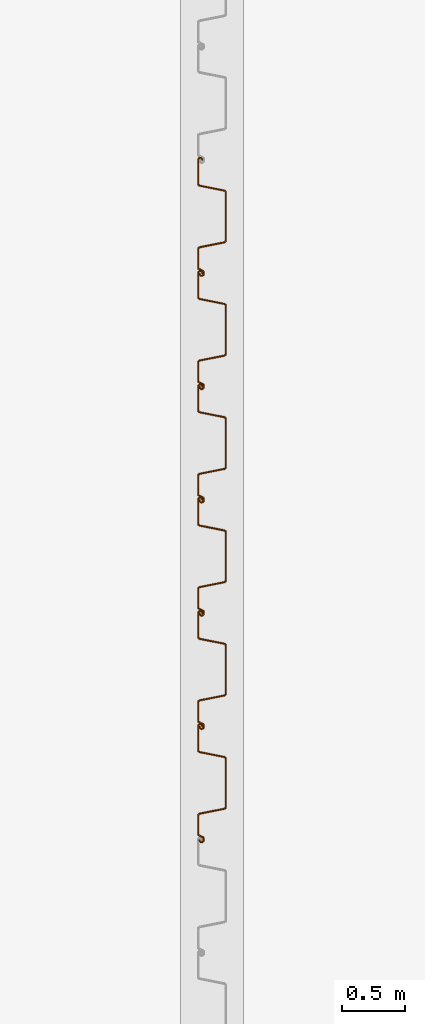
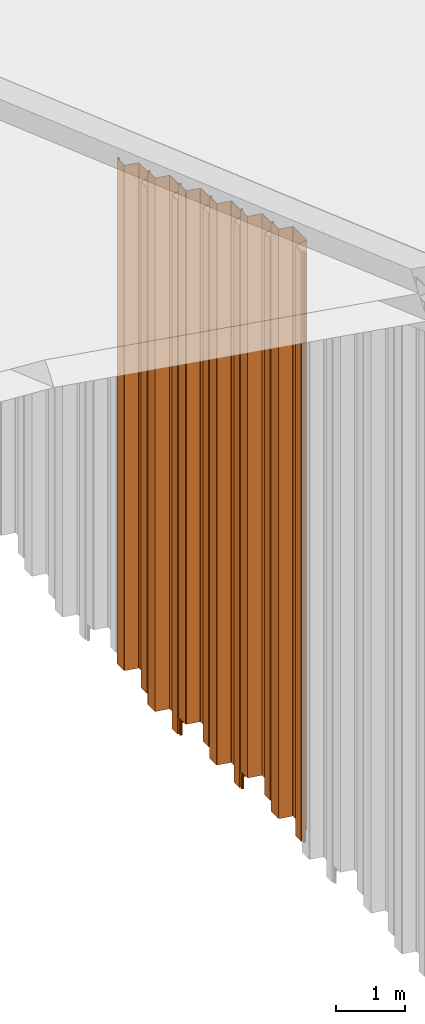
# One storey, part 29 of 32: 6 proxies.
"""IFC2X3 building model written with IfcOpenShell, lengths in millimetres."""

from ifc_helpers import new_model, entity, si_unit, converted_unit, derived_unit, direction, frame, frame_2d, origin, place, context, subcontext, project, spatial, polyline, circle_curve, parameter, trimmed, segment, composite_curve, outline, extrude, source, transform, mapped, type_object, type_shapes, element, save


model = new_model("IFC2X3")

# Units and contexts
model_context = context("Model", 3, precision=0.01, world=origin(), true_north=direction((6.12303176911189e-17, 1.0)))
body_context = subcontext(model_context, "Body", "Model", "MODEL_VIEW")
ifc_project = project(units=[si_unit("LENGTHUNIT", "METRE", prefix="MILLI"), si_unit("AREAUNIT", "SQUARE_METRE"), si_unit("VOLUMEUNIT", "CUBIC_METRE"), converted_unit("PLANEANGLEUNIT", "DEGREE", entity("IfcRatioMeasure", 0.0174532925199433), si_unit("PLANEANGLEUNIT", "RADIAN"), dimensions=[0, 0, 0, 0, 0, 0, 0]), si_unit("MASSUNIT", "GRAM", prefix="KILO"), derived_unit("MASSDENSITYUNIT", [(si_unit("MASSUNIT", "GRAM", prefix="KILO"), 1), (si_unit("LENGTHUNIT", "METRE"), -3)]), si_unit("TIMEUNIT", "SECOND"), si_unit("FREQUENCYUNIT", "HERTZ"), si_unit("THERMODYNAMICTEMPERATUREUNIT", "DEGREE_CELSIUS"), derived_unit("THERMALTRANSMITTANCEUNIT", [(si_unit("MASSUNIT", "GRAM", prefix="KILO"), 1), (si_unit("THERMODYNAMICTEMPERATUREUNIT", "KELVIN"), -1), (si_unit("TIMEUNIT", "SECOND"), -3)]), derived_unit("VOLUMETRICFLOWRATEUNIT", [(si_unit("LENGTHUNIT", "METRE"), 3), (si_unit("TIMEUNIT", "SECOND"), -1)]), si_unit("ELECTRICCURRENTUNIT", "AMPERE"), si_unit("ELECTRICVOLTAGEUNIT", "VOLT"), si_unit("POWERUNIT", "WATT"), si_unit("FORCEUNIT", "NEWTON", prefix="KILO"), si_unit("ILLUMINANCEUNIT", "LUX"), si_unit("LUMINOUSFLUXUNIT", "LUMEN"), si_unit("LUMINOUSINTENSITYUNIT", "CANDELA"), derived_unit("USERDEFINED", [(si_unit("MASSUNIT", "GRAM", prefix="KILO"), -1), (si_unit("LENGTHUNIT", "METRE"), -2), (si_unit("TIMEUNIT", "SECOND"), 3), (si_unit("LUMINOUSFLUXUNIT", "LUMEN"), 1)]), derived_unit("LINEARVELOCITYUNIT", [(si_unit("LENGTHUNIT", "METRE"), 1), (si_unit("TIMEUNIT", "SECOND"), -1)]), si_unit("PRESSUREUNIT", "PASCAL"), derived_unit("USERDEFINED", [(si_unit("LENGTHUNIT", "METRE"), -2), (si_unit("MASSUNIT", "GRAM", prefix="KILO"), 1), (si_unit("TIMEUNIT", "SECOND"), -2)])], contexts=[model_context])

# Site, building, storey
site_placement = place(None, origin())
site = spatial("IfcSite", under=ifc_project, at=site_placement, Name="Default", CompositionType="ELEMENT")
building_placement = place(site_placement, origin())
building = spatial("IfcBuilding", under=site, at=building_placement, CompositionType="ELEMENT")
storey_placement = place(building_placement, origin())
storey = spatial("IfcBuildingStorey", under=building, at=storey_placement, Name="矢板", CompositionType="ELEMENT", Elevation=0.0)

# Proxies
building_element_proxy_type_1 = type_object("IfcBuildingElementProxyType", Name="鋼矢板10H型", PredefinedType="NOTDEFINED")
shared_shape_1 = source(origin(), body_context, "Body", "SweptSolid", [
    extrude(outline(composite_curve([segment(trimmed(circle_curve(frame_2d((85.3662976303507, 306.644432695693), x_axis=(0.422618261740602, 0.906307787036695)), 13.885714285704), [parameter(24.9999999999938)], [parameter(90.0000000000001)], True, "PARAMETER"), True, "CONTINUOUS"), segment(polyline([(72.7815666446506, 312.512789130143), (9.8129512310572, 177.476157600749)]), True, "CONTINUOUS"), segment(trimmed(circle_curve(frame_2d((29.3891994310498, 168.347603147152), x_axis=(0.422618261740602, 0.906307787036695)), 21.6), [parameter(90.0000000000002)], [parameter(168.69006752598)], True, "PARAMETER"), True, "CONTINUOUS"), segment(polyline([(16.598697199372, 150.941769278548), (175.329723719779, 34.2998683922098)]), True, "CONTINUOUS"), segment(trimmed(circle_curve(frame_2d((168.93447260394, 25.596951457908), x_axis=(0.422618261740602, 0.906307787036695)), 10.7999999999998), [parameter(270.0)], [parameter(348.690067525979)], True, "PARAMETER"), False, "CONTINUOUS"), segment(polyline([(178.722596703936, 21.0326742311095), (18.2974003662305, -323.000269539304)]), True, "CONTINUOUS"), segment(trimmed(circle_curve(frame_2d((8.50927626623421, -318.435992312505), x_axis=(0.422618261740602, 0.906307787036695)), 10.8), [parameter(191.30993247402)], [parameter(269.999999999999)], True, "PARAMETER"), False, "CONTINUOUS"), segment(polyline([(5.95324328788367, -328.929166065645), (-185.429973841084, -282.310113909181)]), True, "CONTINUOUS"), segment(trimmed(circle_curve(frame_2d((-190.542039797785, -303.296461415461), x_axis=(0.422618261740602, 0.906307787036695)), 21.6000000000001), [parameter(11.3099324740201)], [parameter(90.0000000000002)], True, "PARAMETER"), True, "CONTINUOUS"), segment(polyline([(-210.118287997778, -294.167906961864), (-290.330886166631, -466.184378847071)]), True, "CONTINUOUS"), segment(trimmed(circle_curve(frame_2d((-270.754637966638, -475.312933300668), x_axis=(0.422618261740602, 0.906307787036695)), 21.6), [parameter(90.0000000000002)], [parameter(269.999999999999)], True, "PARAMETER"), True, "CONTINUOUS"), segment(polyline([(-251.178389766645, -484.441487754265), (-249.065298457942, -479.909948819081)]), True, "CONTINUOUS"), segment(polyline([(-249.065298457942, -479.909948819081), (-258.853422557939, -475.345671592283)]), True, "CONTINUOUS"), segment(polyline([(-258.853422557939, -475.345671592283), (-260.966513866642, -479.877210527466)]), True, "CONTINUOUS"), segment(trimmed(circle_curve(frame_2d((-270.754637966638, -475.312933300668), x_axis=(0.422618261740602, 0.906307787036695)), 10.8), [parameter(90.0000000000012)], [parameter(270.0)], True, "PARAMETER"), False, "CONTINUOUS"), segment(polyline([(-280.542762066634, -470.748656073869), (-200.330163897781, -298.732184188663)]), True, "CONTINUOUS"), segment(trimmed(circle_curve(frame_2d((-190.542039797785, -303.296461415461), x_axis=(0.422618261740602, 0.906307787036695)), 10.8), [parameter(11.3099324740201)], [parameter(89.9999999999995)], True, "PARAMETER"), False, "CONTINUOUS"), segment(polyline([(-187.986006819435, -292.803287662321), (3.39721030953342, -339.422339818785)]), True, "CONTINUOUS"), segment(trimmed(circle_curve(frame_2d((8.50927626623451, -318.435992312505), x_axis=(0.422618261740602, 0.906307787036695)), 21.6), [parameter(191.30993247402)], [parameter(270.0)], True, "PARAMETER"), True, "CONTINUOUS"), segment(polyline([(28.0855244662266, -327.564546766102), (188.510720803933, 16.4683970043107)]), True, "CONTINUOUS"), segment(trimmed(circle_curve(frame_2d((168.93447260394, 25.5969514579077), x_axis=(0.422618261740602, 0.906307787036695)), 21.6), [parameter(270.0)], [parameter(348.69006752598)], True, "PARAMETER"), True, "CONTINUOUS"), segment(polyline([(181.724974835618, 43.0027853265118), (22.9939483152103, 159.644686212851)]), True, "CONTINUOUS"), segment(trimmed(circle_curve(frame_2d((29.3891994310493, 168.347603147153), x_axis=(0.422618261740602, 0.906307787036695)), 10.7999999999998), [parameter(89.9999999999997)], [parameter(168.690067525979)], True, "PARAMETER"), False, "CONTINUOUS"), segment(polyline([(19.6010753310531, 172.911880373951), (82.5696907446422, 307.948511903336)]), True, "CONTINUOUS"), segment(trimmed(circle_curve(frame_2d((85.3662976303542, 306.64443269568), x_axis=(0.422618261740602, 0.906307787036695)), 3.08571428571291), [parameter(25.0000000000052)], [parameter(90.0000000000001)], True, "PARAMETER"), False, "CONTINUOUS"), segment(polyline([(85.3662976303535, 309.730146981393), (122.220231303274, 309.730146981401)]), True, "CONTINUOUS"), segment(trimmed(circle_curve(frame_2d((122.220231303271, 323.615861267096), x_axis=(0.422618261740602, 0.906307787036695)), 13.8857142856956), [parameter(205.000000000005)], [parameter(270.0)], True, "PARAMETER"), True, "CONTINUOUS"), segment(polyline([(134.804962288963, 317.747504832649), (141.079261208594, 331.202782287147)]), True, "CONTINUOUS"), segment(trimmed(circle_curve(frame_2d((121.503013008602, 340.331336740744), x_axis=(0.422618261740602, 0.906307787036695)), 21.6), [parameter(270.0)], [parameter(90.0000000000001)], True, "PARAMETER"), True, "CONTINUOUS"), segment(polyline([(101.926764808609, 349.459891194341), (99.8136734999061, 344.928352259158)]), True, "CONTINUOUS"), segment(polyline([(99.8136734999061, 344.928352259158), (109.601797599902, 340.364075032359)]), True, "CONTINUOUS"), segment(polyline([(109.601797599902, 340.364075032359), (111.714888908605, 344.895613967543)]), True, "CONTINUOUS"), segment(trimmed(circle_curve(frame_2d((121.503013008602, 340.331336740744), x_axis=(0.422618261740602, 0.906307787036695)), 10.8), [parameter(270.0)], [parameter(89.9999999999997)], True, "PARAMETER"), False, "CONTINUOUS"), segment(polyline([(131.291137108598, 335.767059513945), (125.01683818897, 322.311782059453)]), True, "CONTINUOUS"), segment(trimmed(circle_curve(frame_2d((122.220231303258, 323.615861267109), x_axis=(0.422618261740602, 0.906307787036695)), 3.08571428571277), [parameter(204.999999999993)], [parameter(270.0)], True, "PARAMETER"), False, "CONTINUOUS"), segment(polyline([(122.220231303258, 320.530146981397), (85.3662976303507, 320.530146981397)]), True, "CONTINUOUS")], self_intersect=False)), frame((95.205667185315, -48.8888888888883, -9000.0), z_axis=(0.0, 0.0, -1.0), x_axis=(0.4226182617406, 0.906307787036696, 0.0)), (0.0, 0.0, -1.0), 9000.0),
])
type_shapes(building_element_proxy_type_1, [shared_shape_1])
proxy_1_placement = place(storey_placement, frame((148500.0, 19151.0, 11037.0), z_axis=(0.0, 0.0, 1.0), x_axis=(0.0, -1.0, 0.0)))
element("IfcBuildingElementProxy", 1, at=proxy_1_placement, inside=storey, type_object=building_element_proxy_type_1, Name="鋼矢板10H型:鋼矢板10H型", ObjectType="鋼矢板10H型:鋼矢板10H型", context=body_context, shape_type="MappedRepresentation", body=[
    mapped(shared_shape_1, transform((0.0, 0.0, 0.0), scale=1.0)),
])
building_element_proxy_type_2 = type_object("IfcBuildingElementProxyType", Name="鋼矢板10H型", PredefinedType="NOTDEFINED")
shared_shape_2 = source(origin(), body_context, "Body", "SweptSolid", [
    extrude(outline(composite_curve([segment(trimmed(circle_curve(frame_2d((85.3662976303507, 306.644432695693), x_axis=(0.422618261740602, 0.906307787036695)), 13.885714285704), [parameter(24.9999999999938)], [parameter(90.0000000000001)], True, "PARAMETER"), True, "CONTINUOUS"), segment(polyline([(72.7815666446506, 312.512789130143), (9.8129512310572, 177.476157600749)]), True, "CONTINUOUS"), segment(trimmed(circle_curve(frame_2d((29.3891994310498, 168.347603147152), x_axis=(0.422618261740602, 0.906307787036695)), 21.6), [parameter(90.0000000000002)], [parameter(168.69006752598)], True, "PARAMETER"), True, "CONTINUOUS"), segment(polyline([(16.598697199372, 150.941769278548), (175.329723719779, 34.2998683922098)]), True, "CONTINUOUS"), segment(trimmed(circle_curve(frame_2d((168.93447260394, 25.596951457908), x_axis=(0.422618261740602, 0.906307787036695)), 10.7999999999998), [parameter(270.0)], [parameter(348.690067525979)], True, "PARAMETER"), False, "CONTINUOUS"), segment(polyline([(178.722596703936, 21.0326742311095), (18.2974003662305, -323.000269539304)]), True, "CONTINUOUS"), segment(trimmed(circle_curve(frame_2d((8.50927626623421, -318.435992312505), x_axis=(0.422618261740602, 0.906307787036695)), 10.8), [parameter(191.30993247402)], [parameter(269.999999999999)], True, "PARAMETER"), False, "CONTINUOUS"), segment(polyline([(5.95324328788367, -328.929166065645), (-185.429973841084, -282.310113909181)]), True, "CONTINUOUS"), segment(trimmed(circle_curve(frame_2d((-190.542039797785, -303.296461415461), x_axis=(0.422618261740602, 0.906307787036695)), 21.6000000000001), [parameter(11.3099324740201)], [parameter(90.0000000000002)], True, "PARAMETER"), True, "CONTINUOUS"), segment(polyline([(-210.118287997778, -294.167906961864), (-290.330886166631, -466.184378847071)]), True, "CONTINUOUS"), segment(trimmed(circle_curve(frame_2d((-270.754637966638, -475.312933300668), x_axis=(0.422618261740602, 0.906307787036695)), 21.6), [parameter(90.0000000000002)], [parameter(269.999999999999)], True, "PARAMETER"), True, "CONTINUOUS"), segment(polyline([(-251.178389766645, -484.441487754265), (-249.065298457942, -479.909948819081)]), True, "CONTINUOUS"), segment(polyline([(-249.065298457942, -479.909948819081), (-258.853422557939, -475.345671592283)]), True, "CONTINUOUS"), segment(polyline([(-258.853422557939, -475.345671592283), (-260.966513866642, -479.877210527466)]), True, "CONTINUOUS"), segment(trimmed(circle_curve(frame_2d((-270.754637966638, -475.312933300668), x_axis=(0.422618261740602, 0.906307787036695)), 10.8), [parameter(90.0000000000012)], [parameter(270.0)], True, "PARAMETER"), False, "CONTINUOUS"), segment(polyline([(-280.542762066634, -470.748656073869), (-200.330163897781, -298.732184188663)]), True, "CONTINUOUS"), segment(trimmed(circle_curve(frame_2d((-190.542039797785, -303.296461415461), x_axis=(0.422618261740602, 0.906307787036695)), 10.8), [parameter(11.3099324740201)], [parameter(89.9999999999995)], True, "PARAMETER"), False, "CONTINUOUS"), segment(polyline([(-187.986006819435, -292.803287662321), (3.39721030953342, -339.422339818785)]), True, "CONTINUOUS"), segment(trimmed(circle_curve(frame_2d((8.50927626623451, -318.435992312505), x_axis=(0.422618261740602, 0.906307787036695)), 21.6), [parameter(191.30993247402)], [parameter(270.0)], True, "PARAMETER"), True, "CONTINUOUS"), segment(polyline([(28.0855244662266, -327.564546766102), (188.510720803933, 16.4683970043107)]), True, "CONTINUOUS"), segment(trimmed(circle_curve(frame_2d((168.93447260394, 25.5969514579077), x_axis=(0.422618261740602, 0.906307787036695)), 21.6), [parameter(270.0)], [parameter(348.69006752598)], True, "PARAMETER"), True, "CONTINUOUS"), segment(polyline([(181.724974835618, 43.0027853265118), (22.9939483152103, 159.644686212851)]), True, "CONTINUOUS"), segment(trimmed(circle_curve(frame_2d((29.3891994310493, 168.347603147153), x_axis=(0.422618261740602, 0.906307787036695)), 10.7999999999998), [parameter(89.9999999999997)], [parameter(168.690067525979)], True, "PARAMETER"), False, "CONTINUOUS"), segment(polyline([(19.6010753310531, 172.911880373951), (82.5696907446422, 307.948511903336)]), True, "CONTINUOUS"), segment(trimmed(circle_curve(frame_2d((85.3662976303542, 306.64443269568), x_axis=(0.422618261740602, 0.906307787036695)), 3.08571428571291), [parameter(25.0000000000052)], [parameter(90.0000000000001)], True, "PARAMETER"), False, "CONTINUOUS"), segment(polyline([(85.3662976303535, 309.730146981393), (122.220231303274, 309.730146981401)]), True, "CONTINUOUS"), segment(trimmed(circle_curve(frame_2d((122.220231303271, 323.615861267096), x_axis=(0.422618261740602, 0.906307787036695)), 13.8857142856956), [parameter(205.000000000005)], [parameter(270.0)], True, "PARAMETER"), True, "CONTINUOUS"), segment(polyline([(134.804962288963, 317.747504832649), (141.079261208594, 331.202782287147)]), True, "CONTINUOUS"), segment(trimmed(circle_curve(frame_2d((121.503013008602, 340.331336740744), x_axis=(0.422618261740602, 0.906307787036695)), 21.6), [parameter(270.0)], [parameter(90.0000000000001)], True, "PARAMETER"), True, "CONTINUOUS"), segment(polyline([(101.926764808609, 349.459891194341), (99.8136734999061, 344.928352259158)]), True, "CONTINUOUS"), segment(polyline([(99.8136734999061, 344.928352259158), (109.601797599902, 340.364075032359)]), True, "CONTINUOUS"), segment(polyline([(109.601797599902, 340.364075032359), (111.714888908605, 344.895613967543)]), True, "CONTINUOUS"), segment(trimmed(circle_curve(frame_2d((121.503013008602, 340.331336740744), x_axis=(0.422618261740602, 0.906307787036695)), 10.8), [parameter(270.0)], [parameter(89.9999999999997)], True, "PARAMETER"), False, "CONTINUOUS"), segment(polyline([(131.291137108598, 335.767059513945), (125.01683818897, 322.311782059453)]), True, "CONTINUOUS"), segment(trimmed(circle_curve(frame_2d((122.220231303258, 323.615861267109), x_axis=(0.422618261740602, 0.906307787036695)), 3.08571428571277), [parameter(204.999999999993)], [parameter(270.0)], True, "PARAMETER"), False, "CONTINUOUS"), segment(polyline([(122.220231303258, 320.530146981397), (85.3662976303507, 320.530146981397)]), True, "CONTINUOUS")], self_intersect=False)), frame((95.205667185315, -48.8888888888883, -9500.0), z_axis=(0.0, 0.0, -1.0), x_axis=(0.4226182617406, 0.906307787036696, 0.0)), (0.0, 0.0, -1.0), 9500.0),
])
type_shapes(building_element_proxy_type_2, [shared_shape_2])
for number, where, z_axis, x_axis in (
    (2, (148500.0, 18251.0, 11356.0), (0.0, 0.0, 1.0), (0.0, -1.0, 0.0)),
    (3, (148500.0, 17351.0, 11674.0), (0.0, 0.0, 1.0), (0.0, -1.0, 0.0)),
):
    element("IfcBuildingElementProxy", number, at=place(storey_placement, frame(where, z_axis=z_axis, x_axis=x_axis)), inside=storey, type_object=building_element_proxy_type_2, Name="鋼矢板10H型:鋼矢板10H型", ObjectType="鋼矢板10H型:鋼矢板10H型", context=body_context, shape_type="MappedRepresentation", body=[
        mapped(shared_shape_2, transform((0.0, 0.0, 0.0), scale=1.0)),
    ])
building_element_proxy_type_3 = type_object("IfcBuildingElementProxyType", Name="鋼矢板10H型", PredefinedType="NOTDEFINED")
shared_shape_3 = source(origin(), body_context, "Body", "SweptSolid", [
    extrude(outline(composite_curve([segment(trimmed(circle_curve(frame_2d((85.3662976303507, 306.644432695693), x_axis=(0.422618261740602, 0.906307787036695)), 13.885714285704), [parameter(24.9999999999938)], [parameter(90.0000000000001)], True, "PARAMETER"), True, "CONTINUOUS"), segment(polyline([(72.7815666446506, 312.512789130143), (9.8129512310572, 177.476157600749)]), True, "CONTINUOUS"), segment(trimmed(circle_curve(frame_2d((29.3891994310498, 168.347603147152), x_axis=(0.422618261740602, 0.906307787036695)), 21.6), [parameter(90.0000000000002)], [parameter(168.69006752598)], True, "PARAMETER"), True, "CONTINUOUS"), segment(polyline([(16.598697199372, 150.941769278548), (175.329723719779, 34.2998683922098)]), True, "CONTINUOUS"), segment(trimmed(circle_curve(frame_2d((168.93447260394, 25.596951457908), x_axis=(0.422618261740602, 0.906307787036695)), 10.7999999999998), [parameter(270.0)], [parameter(348.690067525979)], True, "PARAMETER"), False, "CONTINUOUS"), segment(polyline([(178.722596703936, 21.0326742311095), (18.2974003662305, -323.000269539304)]), True, "CONTINUOUS"), segment(trimmed(circle_curve(frame_2d((8.50927626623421, -318.435992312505), x_axis=(0.422618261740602, 0.906307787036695)), 10.8), [parameter(191.30993247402)], [parameter(269.999999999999)], True, "PARAMETER"), False, "CONTINUOUS"), segment(polyline([(5.95324328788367, -328.929166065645), (-185.429973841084, -282.310113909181)]), True, "CONTINUOUS"), segment(trimmed(circle_curve(frame_2d((-190.542039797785, -303.296461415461), x_axis=(0.422618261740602, 0.906307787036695)), 21.6000000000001), [parameter(11.3099324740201)], [parameter(90.0000000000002)], True, "PARAMETER"), True, "CONTINUOUS"), segment(polyline([(-210.118287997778, -294.167906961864), (-290.330886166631, -466.184378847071)]), True, "CONTINUOUS"), segment(trimmed(circle_curve(frame_2d((-270.754637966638, -475.312933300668), x_axis=(0.422618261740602, 0.906307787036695)), 21.6), [parameter(90.0000000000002)], [parameter(269.999999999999)], True, "PARAMETER"), True, "CONTINUOUS"), segment(polyline([(-251.178389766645, -484.441487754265), (-249.065298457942, -479.909948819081)]), True, "CONTINUOUS"), segment(polyline([(-249.065298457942, -479.909948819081), (-258.853422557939, -475.345671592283)]), True, "CONTINUOUS"), segment(polyline([(-258.853422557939, -475.345671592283), (-260.966513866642, -479.877210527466)]), True, "CONTINUOUS"), segment(trimmed(circle_curve(frame_2d((-270.754637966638, -475.312933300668), x_axis=(0.422618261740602, 0.906307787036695)), 10.8), [parameter(90.0000000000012)], [parameter(270.0)], True, "PARAMETER"), False, "CONTINUOUS"), segment(polyline([(-280.542762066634, -470.748656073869), (-200.330163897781, -298.732184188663)]), True, "CONTINUOUS"), segment(trimmed(circle_curve(frame_2d((-190.542039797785, -303.296461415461), x_axis=(0.422618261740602, 0.906307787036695)), 10.8), [parameter(11.3099324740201)], [parameter(89.9999999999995)], True, "PARAMETER"), False, "CONTINUOUS"), segment(polyline([(-187.986006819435, -292.803287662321), (3.39721030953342, -339.422339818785)]), True, "CONTINUOUS"), segment(trimmed(circle_curve(frame_2d((8.50927626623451, -318.435992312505), x_axis=(0.422618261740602, 0.906307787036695)), 21.6), [parameter(191.30993247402)], [parameter(270.0)], True, "PARAMETER"), True, "CONTINUOUS"), segment(polyline([(28.0855244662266, -327.564546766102), (188.510720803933, 16.4683970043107)]), True, "CONTINUOUS"), segment(trimmed(circle_curve(frame_2d((168.93447260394, 25.5969514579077), x_axis=(0.422618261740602, 0.906307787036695)), 21.6), [parameter(270.0)], [parameter(348.69006752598)], True, "PARAMETER"), True, "CONTINUOUS"), segment(polyline([(181.724974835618, 43.0027853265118), (22.9939483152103, 159.644686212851)]), True, "CONTINUOUS"), segment(trimmed(circle_curve(frame_2d((29.3891994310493, 168.347603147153), x_axis=(0.422618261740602, 0.906307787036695)), 10.7999999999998), [parameter(89.9999999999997)], [parameter(168.690067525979)], True, "PARAMETER"), False, "CONTINUOUS"), segment(polyline([(19.6010753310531, 172.911880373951), (82.5696907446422, 307.948511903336)]), True, "CONTINUOUS"), segment(trimmed(circle_curve(frame_2d((85.3662976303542, 306.64443269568), x_axis=(0.422618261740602, 0.906307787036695)), 3.08571428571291), [parameter(25.0000000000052)], [parameter(90.0000000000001)], True, "PARAMETER"), False, "CONTINUOUS"), segment(polyline([(85.3662976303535, 309.730146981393), (122.220231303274, 309.730146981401)]), True, "CONTINUOUS"), segment(trimmed(circle_curve(frame_2d((122.220231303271, 323.615861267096), x_axis=(0.422618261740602, 0.906307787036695)), 13.8857142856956), [parameter(205.000000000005)], [parameter(270.0)], True, "PARAMETER"), True, "CONTINUOUS"), segment(polyline([(134.804962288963, 317.747504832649), (141.079261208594, 331.202782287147)]), True, "CONTINUOUS"), segment(trimmed(circle_curve(frame_2d((121.503013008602, 340.331336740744), x_axis=(0.422618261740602, 0.906307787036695)), 21.6), [parameter(270.0)], [parameter(90.0000000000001)], True, "PARAMETER"), True, "CONTINUOUS"), segment(polyline([(101.926764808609, 349.459891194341), (99.8136734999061, 344.928352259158)]), True, "CONTINUOUS"), segment(polyline([(99.8136734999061, 344.928352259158), (109.601797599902, 340.364075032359)]), True, "CONTINUOUS"), segment(polyline([(109.601797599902, 340.364075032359), (111.714888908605, 344.895613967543)]), True, "CONTINUOUS"), segment(trimmed(circle_curve(frame_2d((121.503013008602, 340.331336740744), x_axis=(0.422618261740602, 0.906307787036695)), 10.8), [parameter(270.0)], [parameter(89.9999999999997)], True, "PARAMETER"), False, "CONTINUOUS"), segment(polyline([(131.291137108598, 335.767059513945), (125.01683818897, 322.311782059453)]), True, "CONTINUOUS"), segment(trimmed(circle_curve(frame_2d((122.220231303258, 323.615861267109), x_axis=(0.422618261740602, 0.906307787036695)), 3.08571428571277), [parameter(204.999999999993)], [parameter(270.0)], True, "PARAMETER"), False, "CONTINUOUS"), segment(polyline([(122.220231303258, 320.530146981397), (85.3662976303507, 320.530146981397)]), True, "CONTINUOUS")], self_intersect=False)), frame((95.205667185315, -48.8888888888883, -10000.0), z_axis=(0.0, 0.0, -1.0), x_axis=(0.4226182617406, 0.906307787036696, 0.0)), (0.0, 0.0, -1.0), 10000.0),
])
type_shapes(building_element_proxy_type_3, [shared_shape_3])
for number, where, z_axis, x_axis in (
    (4, (148500.0, 16451.0, 11993.0), (0.0, 0.0, 1.0), (0.0, -1.0, 0.0)),
    (5, (148500.0, 15551.0, 12311.0), (0.0, 0.0, 1.0), (0.0, -1.0, 0.0)),
):
    element("IfcBuildingElementProxy", number, at=place(storey_placement, frame(where, z_axis=z_axis, x_axis=x_axis)), inside=storey, type_object=building_element_proxy_type_3, Name="鋼矢板10H型:鋼矢板10H型", ObjectType="鋼矢板10H型:鋼矢板10H型", context=body_context, shape_type="MappedRepresentation", body=[
        mapped(shared_shape_3, transform((0.0, 0.0, 0.0), scale=1.0)),
    ])
building_element_proxy_type_4 = type_object("IfcBuildingElementProxyType", Name="鋼矢板10H型", PredefinedType="NOTDEFINED")
shared_shape_4 = source(origin(), body_context, "Body", "SweptSolid", [
    extrude(outline(composite_curve([segment(trimmed(circle_curve(frame_2d((85.3662976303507, 306.644432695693), x_axis=(0.422618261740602, 0.906307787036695)), 13.885714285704), [parameter(24.9999999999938)], [parameter(90.0000000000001)], True, "PARAMETER"), True, "CONTINUOUS"), segment(polyline([(72.7815666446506, 312.512789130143), (9.8129512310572, 177.476157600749)]), True, "CONTINUOUS"), segment(trimmed(circle_curve(frame_2d((29.3891994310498, 168.347603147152), x_axis=(0.422618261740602, 0.906307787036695)), 21.6), [parameter(90.0000000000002)], [parameter(168.69006752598)], True, "PARAMETER"), True, "CONTINUOUS"), segment(polyline([(16.598697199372, 150.941769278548), (175.329723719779, 34.2998683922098)]), True, "CONTINUOUS"), segment(trimmed(circle_curve(frame_2d((168.93447260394, 25.596951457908), x_axis=(0.422618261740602, 0.906307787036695)), 10.7999999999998), [parameter(270.0)], [parameter(348.690067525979)], True, "PARAMETER"), False, "CONTINUOUS"), segment(polyline([(178.722596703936, 21.0326742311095), (18.2974003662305, -323.000269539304)]), True, "CONTINUOUS"), segment(trimmed(circle_curve(frame_2d((8.50927626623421, -318.435992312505), x_axis=(0.422618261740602, 0.906307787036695)), 10.8), [parameter(191.30993247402)], [parameter(269.999999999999)], True, "PARAMETER"), False, "CONTINUOUS"), segment(polyline([(5.95324328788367, -328.929166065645), (-185.429973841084, -282.310113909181)]), True, "CONTINUOUS"), segment(trimmed(circle_curve(frame_2d((-190.542039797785, -303.296461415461), x_axis=(0.422618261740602, 0.906307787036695)), 21.6000000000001), [parameter(11.3099324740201)], [parameter(90.0000000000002)], True, "PARAMETER"), True, "CONTINUOUS"), segment(polyline([(-210.118287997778, -294.167906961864), (-290.330886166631, -466.184378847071)]), True, "CONTINUOUS"), segment(trimmed(circle_curve(frame_2d((-270.754637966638, -475.312933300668), x_axis=(0.422618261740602, 0.906307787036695)), 21.6), [parameter(90.0000000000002)], [parameter(269.999999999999)], True, "PARAMETER"), True, "CONTINUOUS"), segment(polyline([(-251.178389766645, -484.441487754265), (-249.065298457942, -479.909948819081)]), True, "CONTINUOUS"), segment(polyline([(-249.065298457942, -479.909948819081), (-258.853422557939, -475.345671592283)]), True, "CONTINUOUS"), segment(polyline([(-258.853422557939, -475.345671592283), (-260.966513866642, -479.877210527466)]), True, "CONTINUOUS"), segment(trimmed(circle_curve(frame_2d((-270.754637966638, -475.312933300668), x_axis=(0.422618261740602, 0.906307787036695)), 10.8), [parameter(90.0000000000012)], [parameter(270.0)], True, "PARAMETER"), False, "CONTINUOUS"), segment(polyline([(-280.542762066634, -470.748656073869), (-200.330163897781, -298.732184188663)]), True, "CONTINUOUS"), segment(trimmed(circle_curve(frame_2d((-190.542039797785, -303.296461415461), x_axis=(0.422618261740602, 0.906307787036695)), 10.8), [parameter(11.3099324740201)], [parameter(89.9999999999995)], True, "PARAMETER"), False, "CONTINUOUS"), segment(polyline([(-187.986006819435, -292.803287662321), (3.39721030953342, -339.422339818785)]), True, "CONTINUOUS"), segment(trimmed(circle_curve(frame_2d((8.50927626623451, -318.435992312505), x_axis=(0.422618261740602, 0.906307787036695)), 21.6), [parameter(191.30993247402)], [parameter(270.0)], True, "PARAMETER"), True, "CONTINUOUS"), segment(polyline([(28.0855244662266, -327.564546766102), (188.510720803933, 16.4683970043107)]), True, "CONTINUOUS"), segment(trimmed(circle_curve(frame_2d((168.93447260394, 25.5969514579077), x_axis=(0.422618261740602, 0.906307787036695)), 21.6), [parameter(270.0)], [parameter(348.69006752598)], True, "PARAMETER"), True, "CONTINUOUS"), segment(polyline([(181.724974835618, 43.0027853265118), (22.9939483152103, 159.644686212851)]), True, "CONTINUOUS"), segment(trimmed(circle_curve(frame_2d((29.3891994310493, 168.347603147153), x_axis=(0.422618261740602, 0.906307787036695)), 10.7999999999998), [parameter(89.9999999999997)], [parameter(168.690067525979)], True, "PARAMETER"), False, "CONTINUOUS"), segment(polyline([(19.6010753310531, 172.911880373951), (82.5696907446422, 307.948511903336)]), True, "CONTINUOUS"), segment(trimmed(circle_curve(frame_2d((85.3662976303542, 306.64443269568), x_axis=(0.422618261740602, 0.906307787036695)), 3.08571428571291), [parameter(25.0000000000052)], [parameter(90.0000000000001)], True, "PARAMETER"), False, "CONTINUOUS"), segment(polyline([(85.3662976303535, 309.730146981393), (122.220231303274, 309.730146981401)]), True, "CONTINUOUS"), segment(trimmed(circle_curve(frame_2d((122.220231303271, 323.615861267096), x_axis=(0.422618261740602, 0.906307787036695)), 13.8857142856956), [parameter(205.000000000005)], [parameter(270.0)], True, "PARAMETER"), True, "CONTINUOUS"), segment(polyline([(134.804962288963, 317.747504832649), (141.079261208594, 331.202782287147)]), True, "CONTINUOUS"), segment(trimmed(circle_curve(frame_2d((121.503013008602, 340.331336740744), x_axis=(0.422618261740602, 0.906307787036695)), 21.6), [parameter(270.0)], [parameter(90.0000000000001)], True, "PARAMETER"), True, "CONTINUOUS"), segment(polyline([(101.926764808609, 349.459891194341), (99.8136734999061, 344.928352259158)]), True, "CONTINUOUS"), segment(polyline([(99.8136734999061, 344.928352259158), (109.601797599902, 340.364075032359)]), True, "CONTINUOUS"), segment(polyline([(109.601797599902, 340.364075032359), (111.714888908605, 344.895613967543)]), True, "CONTINUOUS"), segment(trimmed(circle_curve(frame_2d((121.503013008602, 340.331336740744), x_axis=(0.422618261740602, 0.906307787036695)), 10.8), [parameter(270.0)], [parameter(89.9999999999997)], True, "PARAMETER"), False, "CONTINUOUS"), segment(polyline([(131.291137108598, 335.767059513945), (125.01683818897, 322.311782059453)]), True, "CONTINUOUS"), segment(trimmed(circle_curve(frame_2d((122.220231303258, 323.615861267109), x_axis=(0.422618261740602, 0.906307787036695)), 3.08571428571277), [parameter(204.999999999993)], [parameter(270.0)], True, "PARAMETER"), False, "CONTINUOUS"), segment(polyline([(122.220231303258, 320.530146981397), (85.3662976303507, 320.530146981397)]), True, "CONTINUOUS")], self_intersect=False)), frame((95.205667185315, -48.8888888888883, -10500.0), z_axis=(0.0, 0.0, -1.0), x_axis=(0.4226182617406, 0.906307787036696, 0.0)), (0.0, 0.0, -1.0), 10500.0),
])
type_shapes(building_element_proxy_type_4, [shared_shape_4])
proxy_2_placement = place(storey_placement, frame((148500.0, 14651.0, 12630.0), z_axis=(0.0, 0.0, 1.0), x_axis=(0.0, -1.0, 0.0)))
element("IfcBuildingElementProxy", 6, at=proxy_2_placement, inside=storey, type_object=building_element_proxy_type_4, Name="鋼矢板10H型:鋼矢板10H型", ObjectType="鋼矢板10H型:鋼矢板10H型", context=body_context, shape_type="MappedRepresentation", body=[
    mapped(shared_shape_4, transform((0.0, 0.0, 0.0), scale=1.0)),
])

save(model, "model.ifc")
